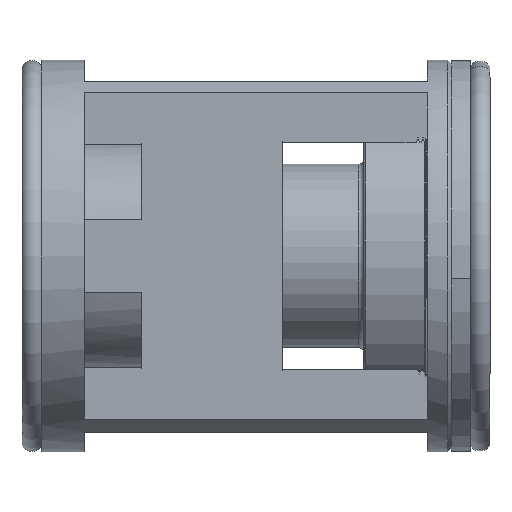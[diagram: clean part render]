
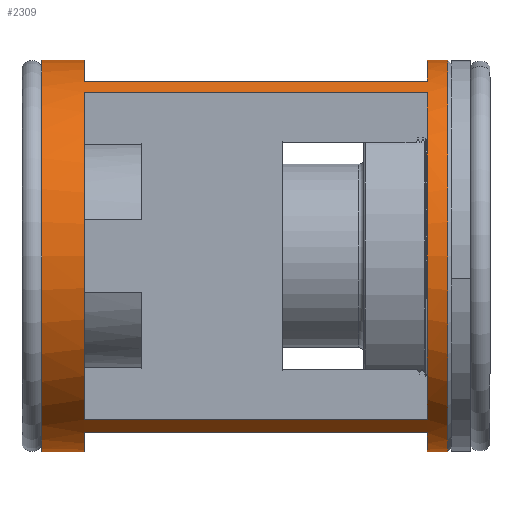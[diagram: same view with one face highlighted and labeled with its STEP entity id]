
A CAD part, front view. The second image highlights one B-rep face of the part: STEP entity #2309.
In plain terms, the highlighted cylindrical face has radius 30.366 mm (diameter 60.731 mm), a partial arc.
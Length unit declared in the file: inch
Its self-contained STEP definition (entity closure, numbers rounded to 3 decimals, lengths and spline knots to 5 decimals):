
#48 = CARTESIAN_POINT ( 'NONE',  ( 1.63957, 1.75563, 2.01914 ) ) ;
#87 = CARTESIAN_POINT ( 'NONE',  ( 1.78457, 1.75563, 3.21464 ) ) ;
#130 = LINE ( 'NONE', #8174, #3823 ) ;
#133 = ORIENTED_EDGE ( 'NONE', *, *, #530, .T. ) ;
#168 = CARTESIAN_POINT ( 'NONE',  ( -0.71443, 1.75563, 2.01914 ) ) ;
#236 = DIRECTION ( 'NONE',  ( 0., 0., -1. ) ) ;
#356 = DIRECTION ( 'NONE',  ( -1., 0., 0. ) ) ;
#412 = CARTESIAN_POINT ( 'NONE',  ( 1.78457, 1.21808, 3.08698 ) ) ;
#414 = DIRECTION ( 'NONE',  ( 0., 0., -1. ) ) ;
#479 = ORIENTED_EDGE ( 'NONE', *, *, #4320, .F. ) ;
#530 = EDGE_CURVE ( 'NONE', #7347, #12678, #5254, .T. ) ;
#551 = CARTESIAN_POINT ( 'NONE',  ( -0.45543, 1.09963, 3.01859 ) ) ;
#606 = DIRECTION ( 'NONE',  ( 1., 0., 0. ) ) ;
#746 = AXIS2_PLACEMENT_3D ( 'NONE', #6094, #4548, #10312 ) ;
#824 = VECTOR ( 'NONE', #13122, 39.37008 ) ;
#878 = CARTESIAN_POINT ( 'NONE',  ( -0.71443, 1.75563, 0.82364 ) ) ;
#1052 = ORIENTED_EDGE ( 'NONE', *, *, #5248, .T. ) ;
#1331 = DIRECTION ( 'NONE',  ( -1., 0., 0. ) ) ;
#1376 = ORIENTED_EDGE ( 'NONE', *, *, #12415, .T. ) ;
#1404 = CIRCLE ( 'NONE', #746, 1.1955 ) ;
#1512 = DIRECTION ( 'NONE',  ( 0., 0., -1. ) ) ;
#1520 = CARTESIAN_POINT ( 'NONE',  ( -0.45543, 1.09963, 1.0197 ) ) ;
#1536 = CARTESIAN_POINT ( 'NONE',  ( 1.78457, 1.75563, 3.21464 ) ) ;
#1641 = DIRECTION ( 'NONE',  ( -1., 0., 0. ) ) ;
#1658 = VERTEX_POINT ( 'NONE', #5044 ) ;
#1747 = DIRECTION ( 'NONE',  ( 0., 1., 0. ) ) ;
#1894 = CARTESIAN_POINT ( 'NONE',  ( 1.78457, 1.75563, 0.82364 ) ) ;
#1920 = VERTEX_POINT ( 'NONE', #551 ) ;
#2028 = CIRCLE ( 'NONE', #6319, 1.1955 ) ;
#2038 = CIRCLE ( 'NONE', #5252, 1.1955 ) ;
#2073 = ORIENTED_EDGE ( 'NONE', *, *, #12258, .T. ) ;
#2201 = VERTEX_POINT ( 'NONE', #8304 ) ;
#2223 = EDGE_CURVE ( 'NONE', #2879, #2501, #1404, .T. ) ;
#2288 = LINE ( 'NONE', #6508, #4814 ) ;
#2309 = ADVANCED_FACE ( 'NONE', ( #5721, #11729 ), #12911, .T. ) ;
#2356 = DIRECTION ( 'NONE',  ( 0., 1., 0. ) ) ;
#2501 = VERTEX_POINT ( 'NONE', #10331 ) ;
#2555 = CARTESIAN_POINT ( 'NONE',  ( 1.63957, 1.09963, 3.01859 ) ) ;
#2590 = ORIENTED_EDGE ( 'NONE', *, *, #4933, .F. ) ;
#2879 = VERTEX_POINT ( 'NONE', #12030 ) ;
#2975 = EDGE_CURVE ( 'NONE', #2201, #3160, #7394, .T. ) ;
#2988 = CIRCLE ( 'NONE', #4691, 1.1955 ) ;
#3029 = DIRECTION ( 'NONE',  ( -1., 0., 0. ) ) ;
#3068 = ORIENTED_EDGE ( 'NONE', *, *, #10845, .T. ) ;
#3127 = EDGE_CURVE ( 'NONE', #7890, #3515, #2288, .T. ) ;
#3160 = VERTEX_POINT ( 'NONE', #2555 ) ;
#3352 = AXIS2_PLACEMENT_3D ( 'NONE', #168, #6426, #236 ) ;
#3468 = EDGE_CURVE ( 'NONE', #7347, #12484, #8203, .T. ) ;
#3515 = VERTEX_POINT ( 'NONE', #9738 ) ;
#3548 = AXIS2_PLACEMENT_3D ( 'NONE', #48, #8236, #9444 ) ;
#3721 = CARTESIAN_POINT ( 'NONE',  ( -0.71443, 1.75563, 3.21464 ) ) ;
#3750 = VERTEX_POINT ( 'NONE', #6964 ) ;
#3823 = VECTOR ( 'NONE', #1331, 39.37008 ) ;
#3863 = EDGE_CURVE ( 'NONE', #5082, #2501, #8546, .T. ) ;
#4190 = EDGE_CURVE ( 'NONE', #7890, #5082, #2028, .T. ) ;
#4237 = CARTESIAN_POINT ( 'NONE',  ( 1.63957, 1.75563, 2.01914 ) ) ;
#4295 = ORIENTED_EDGE ( 'NONE', *, *, #8694, .T. ) ;
#4320 = EDGE_CURVE ( 'NONE', #10638, #3750, #2038, .T. ) ;
#4393 = VECTOR ( 'NONE', #6803, 39.37008 ) ;
#4465 = DIRECTION ( 'NONE',  ( -1., 0., 0. ) ) ;
#4548 = DIRECTION ( 'NONE',  ( -1., 0., 0. ) ) ;
#4566 = ORIENTED_EDGE ( 'NONE', *, *, #4190, .F. ) ;
#4606 = DIRECTION ( 'NONE',  ( -1., 0., 0. ) ) ;
#4691 = AXIS2_PLACEMENT_3D ( 'NONE', #12159, #3029, #5159 ) ;
#4757 = CARTESIAN_POINT ( 'NONE',  ( 1.63957, 1.75563, 0.82364 ) ) ;
#4814 = VECTOR ( 'NONE', #9639, 39.37008 ) ;
#4933 = EDGE_CURVE ( 'NONE', #3750, #1658, #6586, .T. ) ;
#5013 = ORIENTED_EDGE ( 'NONE', *, *, #3863, .F. ) ;
#5044 = CARTESIAN_POINT ( 'NONE',  ( 1.76457, 1.75563, 3.21464 ) ) ;
#5082 = VERTEX_POINT ( 'NONE', #9144 ) ;
#5159 = DIRECTION ( 'NONE',  ( 0., 1., 0. ) ) ;
#5248 = EDGE_CURVE ( 'NONE', #10638, #12871, #5455, .T. ) ;
#5252 = AXIS2_PLACEMENT_3D ( 'NONE', #4237, #8310, #2356 ) ;
#5254 = CIRCLE ( 'NONE', #3352, 1.1955 ) ;
#5364 = ORIENTED_EDGE ( 'NONE', *, *, #2223, .T. ) ;
#5455 = LINE ( 'NONE', #412, #8460 ) ;
#5533 = LINE ( 'NONE', #6676, #4393 ) ;
#5542 = DIRECTION ( 'NONE',  ( 0., 1., 0. ) ) ;
#5677 = CARTESIAN_POINT ( 'NONE',  ( 1.76457, 1.75563, 2.01914 ) ) ;
#5721 = FACE_OUTER_BOUND ( 'NONE', #12915, .T. ) ;
#5921 = DIRECTION ( 'NONE',  ( -1., 0., 0. ) ) ;
#6067 = ORIENTED_EDGE ( 'NONE', *, *, #3127, .T. ) ;
#6094 = CARTESIAN_POINT ( 'NONE',  ( -0.45543, 1.75563, 2.01914 ) ) ;
#6319 = AXIS2_PLACEMENT_3D ( 'NONE', #13180, #5921, #1747 ) ;
#6426 = DIRECTION ( 'NONE',  ( 1., 0., 0. ) ) ;
#6468 = CARTESIAN_POINT ( 'NONE',  ( 1.63957, 1.21808, 3.08698 ) ) ;
#6508 = CARTESIAN_POINT ( 'NONE',  ( 1.78457, 1.75563, 0.82364 ) ) ;
#6586 = LINE ( 'NONE', #1536, #7187 ) ;
#6676 = CARTESIAN_POINT ( 'NONE',  ( 1.78457, 1.09963, 3.01859 ) ) ;
#6803 = DIRECTION ( 'NONE',  ( 1., 0., 0. ) ) ;
#6964 = CARTESIAN_POINT ( 'NONE',  ( 1.63957, 1.75563, 3.21464 ) ) ;
#6982 = EDGE_CURVE ( 'NONE', #3515, #1658, #11211, .T. ) ;
#7001 = LINE ( 'NONE', #1894, #824 ) ;
#7187 = VECTOR ( 'NONE', #8900, 39.37008 ) ;
#7275 = EDGE_CURVE ( 'NONE', #1920, #3160, #5533, .T. ) ;
#7347 = VERTEX_POINT ( 'NONE', #3721 ) ;
#7394 = CIRCLE ( 'NONE', #3548, 1.1955 ) ;
#7467 = CIRCLE ( 'NONE', #12135, 1.1955 ) ;
#7554 = CARTESIAN_POINT ( 'NONE',  ( -0.45543, 1.75563, 3.21464 ) ) ;
#7793 = ORIENTED_EDGE ( 'NONE', *, *, #3468, .F. ) ;
#7890 = VERTEX_POINT ( 'NONE', #4757 ) ;
#8174 = CARTESIAN_POINT ( 'NONE',  ( 1.78457, 1.09963, 1.0197 ) ) ;
#8203 = LINE ( 'NONE', #87, #12278 ) ;
#8236 = DIRECTION ( 'NONE',  ( -1., 0., 0. ) ) ;
#8304 = CARTESIAN_POINT ( 'NONE',  ( 1.63957, 1.09963, 1.0197 ) ) ;
#8310 = DIRECTION ( 'NONE',  ( -1., 0., 0. ) ) ;
#8442 = AXIS2_PLACEMENT_3D ( 'NONE', #5677, #1641, #1512 ) ;
#8460 = VECTOR ( 'NONE', #4465, 39.37008 ) ;
#8546 = LINE ( 'NONE', #12604, #11652 ) ;
#8660 = CARTESIAN_POINT ( 'NONE',  ( 1.78457, 1.75563, 2.01914 ) ) ;
#8694 = EDGE_CURVE ( 'NONE', #2201, #8794, #130, .T. ) ;
#8794 = VERTEX_POINT ( 'NONE', #1520 ) ;
#8900 = DIRECTION ( 'NONE',  ( 1., 0., 0. ) ) ;
#9144 = CARTESIAN_POINT ( 'NONE',  ( 1.63957, 1.24259, 0.93932 ) ) ;
#9444 = DIRECTION ( 'NONE',  ( 0., 1., 0. ) ) ;
#9639 = DIRECTION ( 'NONE',  ( 1., 0., 0. ) ) ;
#9737 = EDGE_LOOP ( 'NONE', ( #12403, #4295, #2073, #10878 ) ) ;
#9738 = CARTESIAN_POINT ( 'NONE',  ( 1.76457, 1.75563, 0.82364 ) ) ;
#10312 = DIRECTION ( 'NONE',  ( 0., 1., 0. ) ) ;
#10331 = CARTESIAN_POINT ( 'NONE',  ( -0.45543, 1.24259, 0.93932 ) ) ;
#10620 = CARTESIAN_POINT ( 'NONE',  ( -0.45543, 1.75563, 2.01914 ) ) ;
#10638 = VERTEX_POINT ( 'NONE', #6468 ) ;
#10845 = EDGE_CURVE ( 'NONE', #12678, #2879, #7001, .T. ) ;
#10878 = ORIENTED_EDGE ( 'NONE', *, *, #7275, .T. ) ;
#11211 = CIRCLE ( 'NONE', #8442, 1.1955 ) ;
#11431 = ORIENTED_EDGE ( 'NONE', *, *, #6982, .T. ) ;
#11652 = VECTOR ( 'NONE', #356, 39.37008 ) ;
#11729 = FACE_BOUND ( 'NONE', #9737, .T. ) ;
#12030 = CARTESIAN_POINT ( 'NONE',  ( -0.45543, 1.75563, 0.82364 ) ) ;
#12135 = AXIS2_PLACEMENT_3D ( 'NONE', #10620, #4606, #5542 ) ;
#12159 = CARTESIAN_POINT ( 'NONE',  ( -0.45543, 1.75563, 2.01914 ) ) ;
#12258 = EDGE_CURVE ( 'NONE', #8794, #1920, #2988, .T. ) ;
#12269 = AXIS2_PLACEMENT_3D ( 'NONE', #8660, #606, #414 ) ;
#12278 = VECTOR ( 'NONE', #13200, 39.37008 ) ;
#12403 = ORIENTED_EDGE ( 'NONE', *, *, #2975, .F. ) ;
#12415 = EDGE_CURVE ( 'NONE', #12871, #12484, #7467, .T. ) ;
#12484 = VERTEX_POINT ( 'NONE', #7554 ) ;
#12604 = CARTESIAN_POINT ( 'NONE',  ( 1.78457, 1.24259, 0.93932 ) ) ;
#12678 = VERTEX_POINT ( 'NONE', #878 ) ;
#12740 = CARTESIAN_POINT ( 'NONE',  ( -0.45543, 1.21808, 3.08698 ) ) ;
#12871 = VERTEX_POINT ( 'NONE', #12740 ) ;
#12911 = CYLINDRICAL_SURFACE ( 'NONE', #12269, 1.1955 ) ;
#12915 = EDGE_LOOP ( 'NONE', ( #7793, #133, #3068, #5364, #5013, #4566, #6067, #11431, #2590, #479, #1052, #1376 ) ) ;
#13122 = DIRECTION ( 'NONE',  ( 1., 0., 0. ) ) ;
#13180 = CARTESIAN_POINT ( 'NONE',  ( 1.63957, 1.75563, 2.01914 ) ) ;
#13200 = DIRECTION ( 'NONE',  ( 1., 0., 0. ) ) ;
